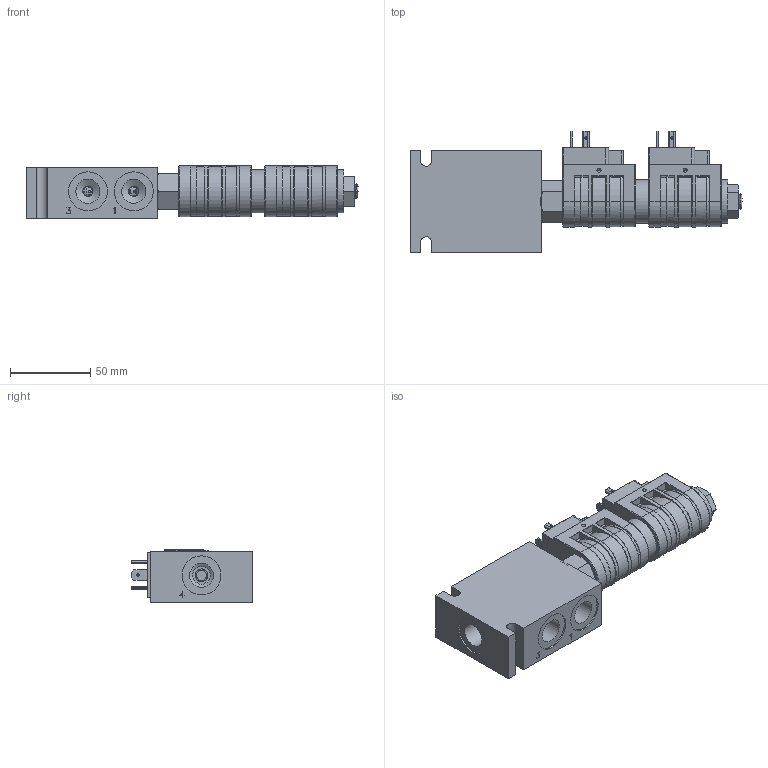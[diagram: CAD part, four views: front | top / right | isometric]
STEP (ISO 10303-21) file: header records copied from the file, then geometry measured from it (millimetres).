
FILE_DESCRIPTION( ( 'Unknown' ), '1' );
FILE_NAME( 'G:/Graphic Design/Graphic Design 2/Data Sheets/SOLENOID OPERATED VALVES/4_STEP/4W2P Spool/PQ-S4O00-B4.stp', 'Unknown', ( 'Unknown' ), ( 'Unknown' ), 'PSStep 15.0.49', 'Unknown', ' ' );
FILE_SCHEMA( ( 'AUTOMOTIVE_DESIGN { 1 0 10303 214 1 1 1 1 }' ) );
Length unit declared in the file: millimetre
Products named in the file (25): D-PHC11; PHC_Body; PHC_Disc; PHC_HirschThread; PT-EL-HC-TerminalConnectors; pqs4o00; PQS4O001; PQS4O002; PQS4O003; PQS4O004; PQS4O005; PQS4O006; PQS4O007; PQS4O008; PQS4O009; PQS4O0010; PQS4O0011; PQS4O0012; PQS4O0P1; Delta_1_2_nut1; Assem1; B-DPQB4
Assembly tree (26 placements, depth 3):
  Assem1
    B-DPQB4
    pqs4o00
      PQS4O001
      PQS4O002
      PQS4O003
      PQS4O004
      PQS4O005
      PQS4O006
      PQS4O007
      PQS4O008
      PQS4O009
      PQS4O0010
      PQS4O0011
      PQS4O0012
      PQS4O0P1
      Delta_1_2_nut1
    D-PHC11  x2
      PHC_Body
      PHC_Disc
      PHC_HirschThread
      PT-EL-HC-TerminalConnectors
      PT-EL-HC-TerminalConnectors
      PT-EL-HC-TerminalConnectors
      PT-EL-HC-TerminalConnectors
Bounding box: 206.43 x 75.34 x 32.62 mm (x, y, z)
Volume: 273232.6 mm3; surface area: 75334.5 mm2
Topology: 31 solids, 31 shells, 864 faces, 2005 edges, 1232 vertices
Faces by surface type: cylinder 364, plane 309, cone 148, torus 31, sphere 12
Full cylindrical faces by diameter (mm): 0.2 x4, 0.5 x4, 1 x2, 1.321 x48, 1.5 x6, 2.337 x8, 4 x4, 6.3 x3, 6.35 x1, 7.95 x1, 9.881 x1, 9.931 x2, 10.643 x2, 11 x1, 11.151 x3, 11.455 x1, 11.506 x2, 12.192 x1, 12.624 x4, 12.725 x4, 12.751 x1, 13 x2, 13.05 x4, 13.056 x1, 13.081 x2, 13.106 x2, 14.199 x4, 14.326 x4, 15 x8, 15.799 x5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
Entity records: 23686 total; most frequent: CARTESIAN_POINT 6130, DIRECTION 2661, ORIENTED_EDGE 2346, EDGE_CURVE 1173, AXIS2_PLACEMENT_3D 1152, EDGE_LOOP 987, VERTEX_POINT 854, FACE_OUTER_BOUND 785
